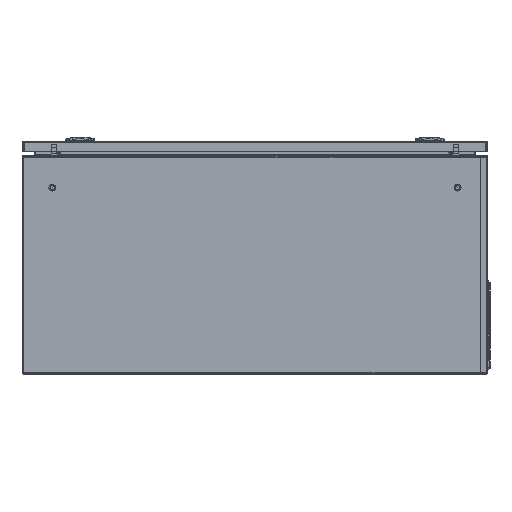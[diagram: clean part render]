
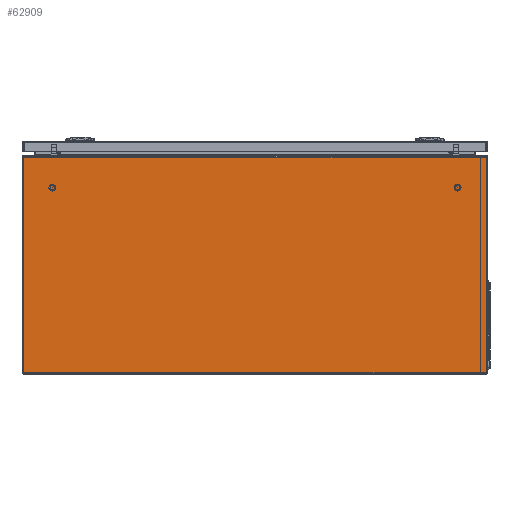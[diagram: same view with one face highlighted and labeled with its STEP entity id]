
A CAD part, left-side view. The second image highlights one B-rep face of the part: STEP entity #62909.
In plain terms, the highlighted planar face has unit normal (-1, 0, 0).
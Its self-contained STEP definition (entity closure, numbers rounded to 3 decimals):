
#1649 = CARTESIAN_POINT ( 'NONE',  ( -1.2, 185.1, -397.6 ) ) ;
#1690 = FACE_OUTER_BOUND ( 'NONE', #104391, .T. ) ;
#3140 = VECTOR ( 'NONE', #87065, 1000. ) ;
#8047 = VERTEX_POINT ( 'NONE', #43533 ) ;
#8054 = CARTESIAN_POINT ( 'NONE',  ( -1.2, 185.1, 397. ) ) ;
#9127 = ORIENTED_EDGE ( 'NONE', *, *, #12461, .F. ) ;
#10274 = CARTESIAN_POINT ( 'NONE',  ( -1.2, 185.1, -397.6 ) ) ;
#12461 = EDGE_CURVE ( 'NONE', #52587, #123319, #115035, .T. ) ;
#12709 = CARTESIAN_POINT ( 'NONE',  ( -1.2, -185.1, 398.8 ) ) ;
#16323 = DIRECTION ( 'NONE',  ( 0., 0., -1. ) ) ;
#18306 = EDGE_CURVE ( 'NONE', #95331, #62966, #95483, .T. ) ;
#20330 = ORIENTED_EDGE ( 'NONE', *, *, #91279, .T. ) ;
#26116 = VECTOR ( 'NONE', #16323, 1000. ) ;
#28382 = CARTESIAN_POINT ( 'NONE',  ( -1.2, -185.1, -397.55 ) ) ;
#28861 = CARTESIAN_POINT ( 'NONE',  ( -1.2, 185.1, 397. ) ) ;
#29491 = LINE ( 'NONE', #28861, #111285 ) ;
#30111 = DIRECTION ( 'NONE',  ( 0., -1., 0. ) ) ;
#30367 = CARTESIAN_POINT ( 'NONE',  ( -1.2, -185.1, 396.95 ) ) ;
#30989 = EDGE_CURVE ( 'NONE', #109804, #8047, #121111, .T. ) ;
#33525 = VECTOR ( 'NONE', #67674, 1000. ) ;
#36855 = CARTESIAN_POINT ( 'NONE',  ( -1.2, 185.1, 397. ) ) ;
#38373 = EDGE_CURVE ( 'NONE', #56380, #123319, #115179, .T. ) ;
#39742 = DIRECTION ( 'NONE',  ( 0., 0., -1. ) ) ;
#42923 = ORIENTED_EDGE ( 'NONE', *, *, #84006, .F. ) ;
#43533 = CARTESIAN_POINT ( 'NONE',  ( -1.2, 185.1, -397.3 ) ) ;
#51458 = LINE ( 'NONE', #81963, #86340 ) ;
#52587 = VERTEX_POINT ( 'NONE', #97104 ) ;
#56380 = VERTEX_POINT ( 'NONE', #10274 ) ;
#62909 = ADVANCED_FACE ( 'NONE', ( #1690 ), #78982, .F. ) ;
#62966 = VERTEX_POINT ( 'NONE', #30367 ) ;
#66217 = DIRECTION ( 'NONE',  ( 0., 0., -1. ) ) ;
#67674 = DIRECTION ( 'NONE',  ( 0., 0., 1. ) ) ;
#70174 = DIRECTION ( 'NONE',  ( 0., 0., 1. ) ) ;
#74841 = ORIENTED_EDGE ( 'NONE', *, *, #85330, .F. ) ;
#74857 = VECTOR ( 'NONE', #106877, 1000. ) ;
#75799 = LINE ( 'NONE', #28382, #33525 ) ;
#78982 = PLANE ( 'NONE',  #111061 ) ;
#81963 = CARTESIAN_POINT ( 'NONE',  ( -1.2, 185.1, 398.8 ) ) ;
#84006 = EDGE_CURVE ( 'NONE', #109804, #95331, #29491, .T. ) ;
#85330 = EDGE_CURVE ( 'NONE', #56380, #8047, #51458, .T. ) ;
#86340 = VECTOR ( 'NONE', #70174, 1000. ) ;
#87065 = DIRECTION ( 'NONE',  ( 0., -1., 0. ) ) ;
#88478 = ORIENTED_EDGE ( 'NONE', *, *, #18306, .F. ) ;
#89568 = ORIENTED_EDGE ( 'NONE', *, *, #38373, .T. ) ;
#90122 = CARTESIAN_POINT ( 'NONE',  ( -1.2, -185.1, -397.6 ) ) ;
#91279 = EDGE_CURVE ( 'NONE', #52587, #62966, #75799, .T. ) ;
#95331 = VERTEX_POINT ( 'NONE', #117358 ) ;
#95483 = LINE ( 'NONE', #113628, #120720 ) ;
#97104 = CARTESIAN_POINT ( 'NONE',  ( -1.2, -185.1, -397.55 ) ) ;
#103031 = ORIENTED_EDGE ( 'NONE', *, *, #30989, .T. ) ;
#104391 = EDGE_LOOP ( 'NONE', ( #42923, #103031, #74841, #89568, #9127, #20330, #88478 ) ) ;
#106877 = DIRECTION ( 'NONE',  ( 0., 0., -1. ) ) ;
#109804 = VERTEX_POINT ( 'NONE', #8054 ) ;
#111061 = AXIS2_PLACEMENT_3D ( 'NONE', #115827, #117047, #39742 ) ;
#111285 = VECTOR ( 'NONE', #30111, 1000. ) ;
#113628 = CARTESIAN_POINT ( 'NONE',  ( -1.2, -185.1, 398.8 ) ) ;
#115035 = LINE ( 'NONE', #12709, #74857 ) ;
#115179 = LINE ( 'NONE', #1649, #3140 ) ;
#115827 = CARTESIAN_POINT ( 'NONE',  ( -1.2, -185.1, -398.8 ) ) ;
#117047 = DIRECTION ( 'NONE',  ( 1., 0., 0. ) ) ;
#117358 = CARTESIAN_POINT ( 'NONE',  ( -1.2, -185.1, 397. ) ) ;
#120720 = VECTOR ( 'NONE', #66217, 1000. ) ;
#121111 = LINE ( 'NONE', #36855, #26116 ) ;
#123319 = VERTEX_POINT ( 'NONE', #90122 ) ;
